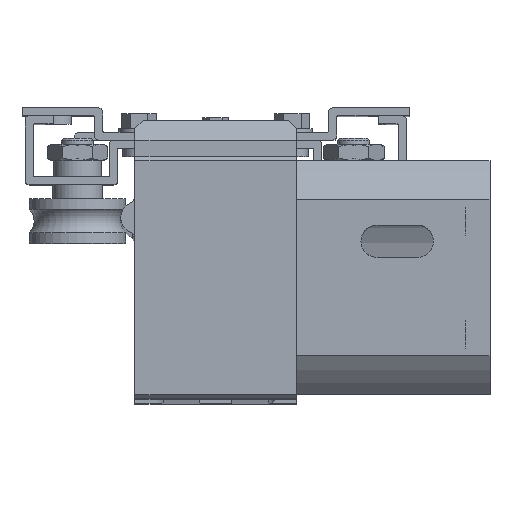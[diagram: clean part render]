
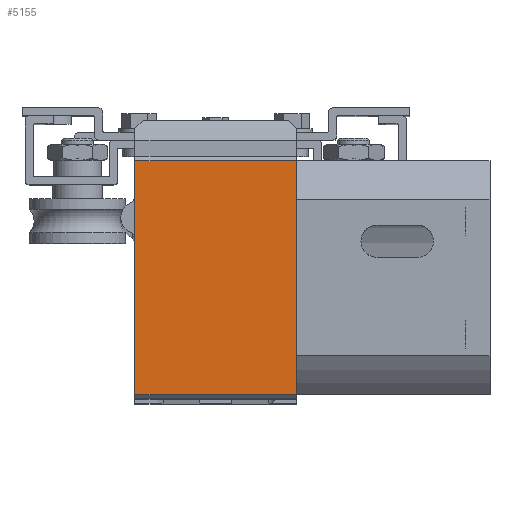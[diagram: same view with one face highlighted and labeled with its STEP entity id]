
A CAD part, top view. The second image highlights one B-rep face of the part: STEP entity #5155.
In plain terms, the highlighted planar face has unit normal (0, 0, 1) as drawn and (-1, 0, 0) by its records, which use the part's own axes.
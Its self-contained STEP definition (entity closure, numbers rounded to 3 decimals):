
#94 = CARTESIAN_POINT ( 'NONE',  ( -38., -29., 40. ) ) ;
#288 = EDGE_LOOP ( 'NONE', ( #1201, #15729, #13382, #18018 ) ) ;
#297 = CARTESIAN_POINT ( 'NONE',  ( -38., -29., 0. ) ) ;
#788 = AXIS2_PLACEMENT_3D ( 'NONE', #94, #9975, #5717 ) ;
#1201 = ORIENTED_EDGE ( 'NONE', *, *, #4817, .T. ) ;
#1219 = DIRECTION ( 'NONE',  ( 0., 0., -1. ) ) ;
#2598 = LINE ( 'NONE', #2778, #9955 ) ;
#2778 = CARTESIAN_POINT ( 'NONE',  ( -38., -29., 40. ) ) ;
#3066 = CARTESIAN_POINT ( 'NONE',  ( -38., 29., 40. ) ) ;
#3308 = DIRECTION ( 'NONE',  ( 0., -1., 0. ) ) ;
#3520 = DIRECTION ( 'NONE',  ( 0., 0., -1. ) ) ;
#3757 = VECTOR ( 'NONE', #3308, 1000. ) ;
#4549 = VERTEX_POINT ( 'NONE', #5219 ) ;
#4696 = LINE ( 'NONE', #6071, #3757 ) ;
#4714 = VERTEX_POINT ( 'NONE', #297 ) ;
#4817 = EDGE_CURVE ( 'NONE', #4549, #4714, #7870, .T. ) ;
#5155 = ADVANCED_FACE ( 'NONE', ( #5551 ), #11462, .F. ) ;
#5219 = CARTESIAN_POINT ( 'NONE',  ( -38., 29., 0. ) ) ;
#5551 = FACE_OUTER_BOUND ( 'NONE', #288, .T. ) ;
#5606 = EDGE_CURVE ( 'NONE', #9019, #4549, #8955, .T. ) ;
#5717 = DIRECTION ( 'NONE',  ( 0., 0., -1. ) ) ;
#5937 = EDGE_CURVE ( 'NONE', #9019, #13177, #4696, .T. ) ;
#6071 = CARTESIAN_POINT ( 'NONE',  ( -38., -29., 40. ) ) ;
#7678 = DIRECTION ( 'NONE',  ( 0., -1., 0. ) ) ;
#7870 = LINE ( 'NONE', #17667, #13154 ) ;
#8172 = VECTOR ( 'NONE', #3520, 1000. ) ;
#8503 = EDGE_CURVE ( 'NONE', #13177, #4714, #2598, .T. ) ;
#8955 = LINE ( 'NONE', #11843, #8172 ) ;
#9019 = VERTEX_POINT ( 'NONE', #3066 ) ;
#9955 = VECTOR ( 'NONE', #1219, 1000. ) ;
#9975 = DIRECTION ( 'NONE',  ( 1., 0., 0. ) ) ;
#11462 = PLANE ( 'NONE',  #788 ) ;
#11843 = CARTESIAN_POINT ( 'NONE',  ( -38., 29., 40. ) ) ;
#13154 = VECTOR ( 'NONE', #7678, 1000. ) ;
#13177 = VERTEX_POINT ( 'NONE', #16144 ) ;
#13382 = ORIENTED_EDGE ( 'NONE', *, *, #5937, .F. ) ;
#15729 = ORIENTED_EDGE ( 'NONE', *, *, #8503, .F. ) ;
#16144 = CARTESIAN_POINT ( 'NONE',  ( -38., -29., 40. ) ) ;
#17667 = CARTESIAN_POINT ( 'NONE',  ( -38., -29., 0. ) ) ;
#18018 = ORIENTED_EDGE ( 'NONE', *, *, #5606, .T. ) ;
